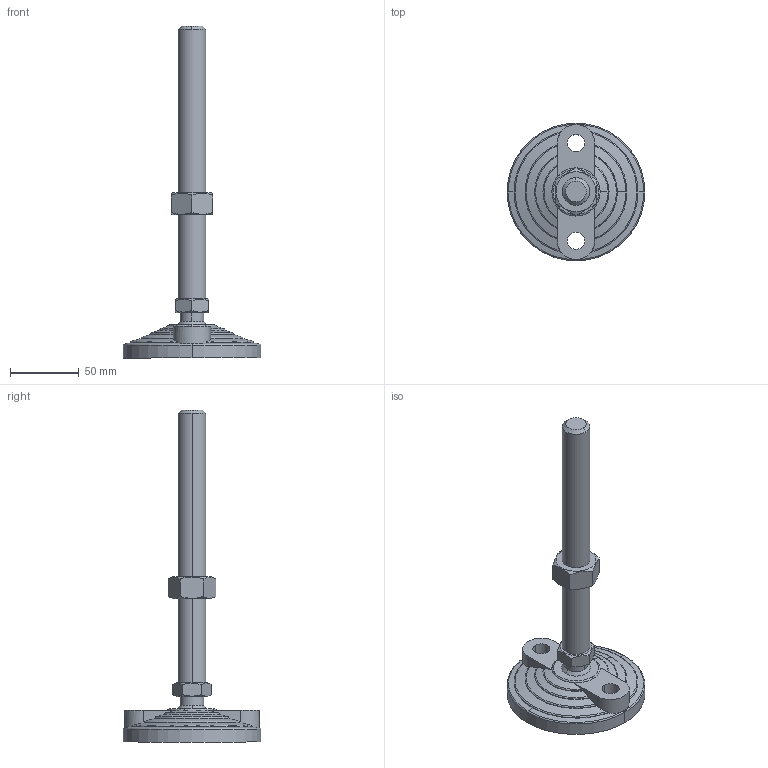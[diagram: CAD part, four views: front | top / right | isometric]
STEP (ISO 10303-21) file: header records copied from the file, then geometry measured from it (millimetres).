
FILE_DESCRIPTION (( 'STEP AP203' ), '1' );
FILE_NAME ('lvf100l20d.STEP', '2021-10-25T03:50:06', ( '' ), ( '' ), 'SwSTEP 2.0', 'SolidWorks 2020', '' );
FILE_SCHEMA (( 'CONFIG_CONTROL_DESIGN' ));
Length unit declared in the file: millimetre
Products named in the file (3): lvf100l20d_01; lvf100l20d_02; lvf100l20d
Assembly tree (2 placements, depth 2):
  lvf100l20d
    lvf100l20d_01
    lvf100l20d_02
Bounding box: 100 x 100 x 241 mm (x, y, z)
Volume: 207684.7 mm3; surface area: 39736.6 mm2
Topology: 2 solids, 2 shells, 86 faces, 221 edges, 143 vertices
Faces by surface type: plane 26, cylinder 24, cone 22, bspline 10, torus 4
Entity records: 3441 total; most frequent: CARTESIAN_POINT 1113, ORIENTED_EDGE 442, DIRECTION 412, EDGE_CURVE 221, AXIS2_PLACEMENT_3D 174, VERTEX_POINT 143, EDGE_LOOP 96, CIRCLE 93
